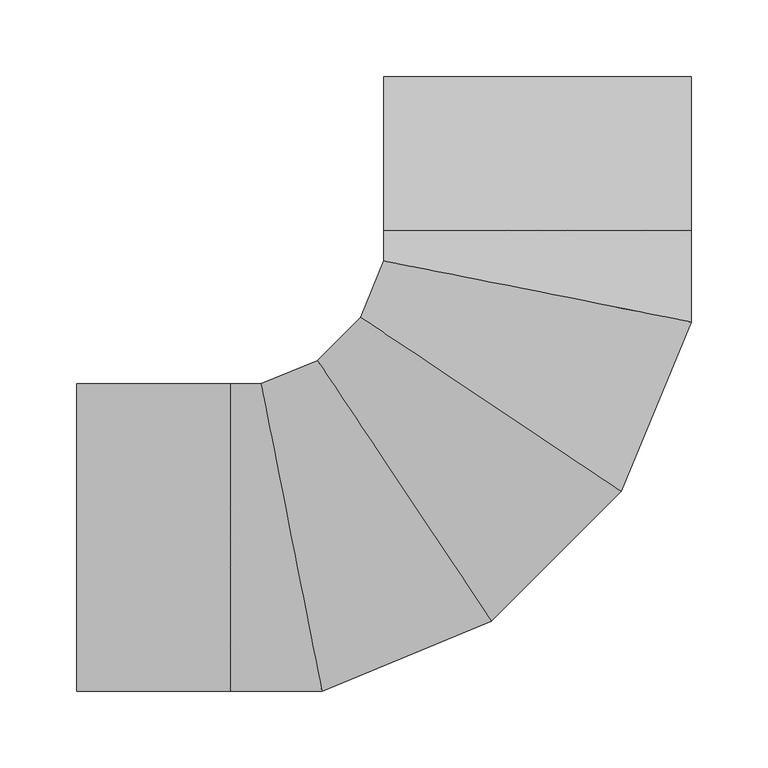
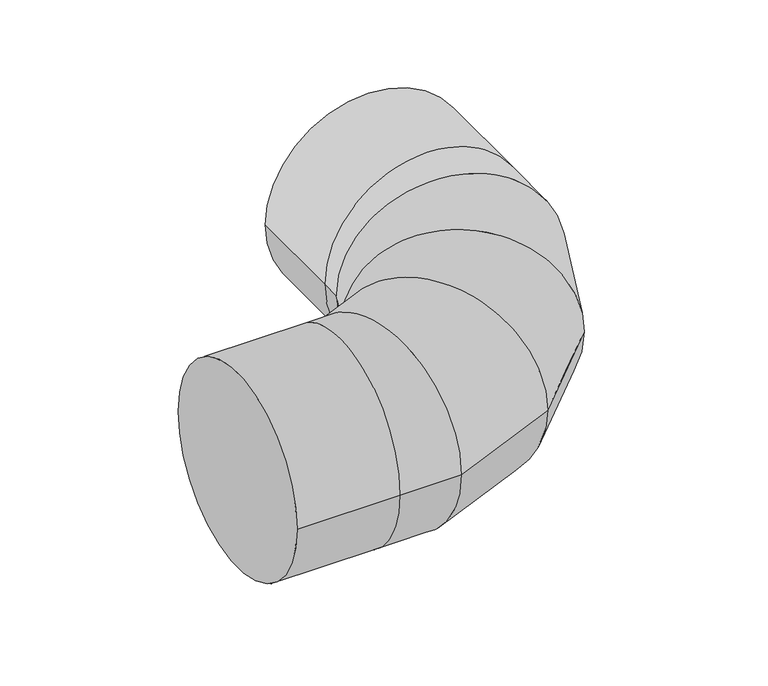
"""IFC4 building model written with IfcOpenShell, lengths in millimetres: pipe fitting geometry, NLRS_52_PIF_UN_PE segmentbocht_PRO_101555_geb : DN200-300 / ø200-315 - OD."""

from ifc_helpers import new_model, si_unit, frame, origin, place, context, project, spatial, circle_curve, ellipse_curve, source, transform, mapped, element, save
from ifc_brep_helpers import plane_surface, cylinder_surface, advanced_brep


def pipe_fitting_7b2d2720(model_context):
    return source(origin(), model_context, "Body", "AdvancedBrep", [
        advanced_brep(
        [(-300.0, -100.0, 0.0), (-300.0, 100.0, 0.0), (-200.0, -100.0, 0.0), (-200.0, 100.0, 0.0), (-140.3262898, -100.0, 0.0), (-180.1087633, 100.0, 0.0), (-30.0636508, -54.3277195, 0.0), (-143.3545503, 115.2240935, 0.0), (100.0, 300.0, 0.0), (-100.0, 300.0, 0.0), (-100.0, 200.0, 0.0), (100.0, 200.0, 0.0), (54.3277195, 30.0636508, 0.0), (-115.2240935, 143.3545503, 0.0), (100.0, 140.3262898, 0.0), (-100.0, 180.1087633, 0.0)],
        [
            (0, 1, circle_curve(frame((-300.0, 0.0, 0.0), z_axis=(-1.0, 0.0, 0.0), x_axis=(0.0, 1.0, 0.0)), 100.0)),
            (1, 0, circle_curve(frame((-300.0, 0.0, 0.0), z_axis=(-1.0, 0.0, 0.0), x_axis=(0.0, 1.0, 0.0)), 100.0)),
            (0, 2),
            (2, 3, circle_curve(frame((-200.0, 0.0, 0.0), z_axis=(-1.0, 0.0, 0.0), x_axis=(0.0, 1.0, 0.0)), 100.0)),
            (3, 1),
            (3, 2, circle_curve(frame((-200.0, 0.0, 0.0), z_axis=(-1.0, 0.0, 0.0), x_axis=(0.0, 1.0, 0.0)), 100.0)),
            (2, 4),
            (4, 5, ellipse_curve(frame((-160.2175265, 0.0, 0.0), z_axis=(-0.98078528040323, -0.1950903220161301, 0.0), x_axis=(-0.19509032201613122, 0.9807852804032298, 0.0)), 101.9591158, 100.0)),
            (5, 3),
            (5, 4, ellipse_curve(frame((-160.2175265, 0.0, 0.0), z_axis=(-0.98078528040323, -0.1950903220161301, 0.0), x_axis=(-0.19509032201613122, 0.9807852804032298, 0.0)), 101.9591158, 100.0)),
            (4, 6),
            (6, 7, ellipse_curve(frame((-86.7091005, 30.448187, 0.0), z_axis=(-0.8314696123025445, -0.5555702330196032, 0.0), x_axis=(-0.555570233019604, 0.831469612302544, 0.0)), 101.9591158, 100.0)),
            (7, 5),
            (7, 6, ellipse_curve(frame((-86.7091005, 30.448187, 0.0), z_axis=(-0.8314696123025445, -0.5555702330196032, 0.0), x_axis=(-0.555570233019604, 0.831469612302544, 0.0)), 101.9591158, 100.0)),
            (8, 9, circle_curve(frame((0.0, 300.0, 0.0), z_axis=(0.0, 1.0, 0.0), x_axis=(-1.0, 0.0, 0.0)), 100.0)),
            (9, 8, circle_curve(frame((0.0, 300.0, 0.0), z_axis=(0.0, 1.0, 0.0), x_axis=(-1.0, 0.0, 0.0)), 100.0)),
            (10, 11, circle_curve(frame((0.0, 200.0, 0.0), z_axis=(0.0, 1.0, 0.0), x_axis=(-1.0, 0.0, 0.0)), 100.0)),
            (11, 8),
            (9, 10),
            (11, 10, circle_curve(frame((0.0, 200.0, 0.0), z_axis=(0.0, 1.0, 0.0), x_axis=(-1.0, 0.0, 0.0)), 100.0)),
            (6, 12),
            (12, 13, ellipse_curve(frame((-30.448187, 86.7091005, 0.0), z_axis=(-0.5555702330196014, -0.8314696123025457, 0.0), x_axis=(-0.8314696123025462, 0.5555702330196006, 0.0)), 101.9591158, 100.0)),
            (13, 7),
            (13, 12, ellipse_curve(frame((-30.448187, 86.7091005, 0.0), z_axis=(-0.5555702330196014, -0.8314696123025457, 0.0), x_axis=(-0.8314696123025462, 0.5555702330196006, 0.0)), 101.9591158, 100.0)),
            (12, 14),
            (14, 15, ellipse_curve(frame((0.0, 160.2175265, 0.0), z_axis=(-0.19509032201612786, -0.9807852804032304, 0.0), x_axis=(-0.9807852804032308, 0.1950903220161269, 0.0)), 101.9591158, 100.0)),
            (15, 13),
            (15, 14, ellipse_curve(frame((0.0, 160.2175265, 0.0), z_axis=(-0.19509032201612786, -0.9807852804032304, 0.0), x_axis=(-0.9807852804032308, 0.1950903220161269, 0.0)), 101.9591158, 100.0)),
            (14, 11),
            (10, 15),
        ],
        [
            plane_surface(frame((-300.0, 0.0, 0.0), z_axis=(-1.0, 0.0, 0.0), x_axis=(0.0, 0.0, 1.0))),
            cylinder_surface(frame((-300.0, 0.0, 0.0), z_axis=(-1.0, 0.0, 0.0), x_axis=(0.0, 1.0, 0.0)), 100.0),
            cylinder_surface(frame((-200.0, 0.0, 0.0), z_axis=(-1.0, 0.0, 0.0), x_axis=(0.0, 1.0, 0.0)), 100.0),
            cylinder_surface(frame((-160.2175265, 0.0, 0.0), z_axis=(-0.9238795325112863, -0.3826834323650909, 0.0), x_axis=(-0.3826834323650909, 0.9238795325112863, 0.0)), 100.0),
            plane_surface(frame((0.0, 300.0, 0.0), z_axis=(0.0, 1.0, 0.0), x_axis=(0.0, 0.0, 1.0))),
            cylinder_surface(frame((0.0, 200.0, 0.0), z_axis=(0.0, -1.0, 0.0), x_axis=(-1.0, 0.0, 0.0)), 100.0),
            cylinder_surface(frame((-86.7091005, 30.448187, 0.0), z_axis=(-0.7071067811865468, -0.7071067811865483, 0.0), x_axis=(-0.7071067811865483, 0.7071067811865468, 0.0)), 100.0),
            cylinder_surface(frame((-30.448187, 86.7091005, 0.0), z_axis=(-0.38268343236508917, -0.9238795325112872, 0.0), x_axis=(-0.9238795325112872, 0.38268343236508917, 0.0)), 100.0),
            cylinder_surface(frame((0.0, 160.2175265, 0.0), z_axis=(0.0, -1.0, 0.0), x_axis=(-1.0, 0.0, 0.0)), 100.0),
        ],
        [
            (0, [[1, 2]]),
            (1, [[-1, 3, 4, 5]]),
            (1, [[-2, -5, 6, -3]]),
            (2, [[-4, 7, 8, 9]]),
            (2, [[-6, -9, 10, -7]]),
            (3, [[-8, 11, 12, 13]]),
            (3, [[-10, -13, 14, -11]]),
            (4, [[15, 16]]),
            (5, [[17, 18, -16, 19]]),
            (5, [[20, -19, -15, -18]]),
            (6, [[-12, 21, 22, 23]]),
            (6, [[-14, -23, 24, -21]]),
            (7, [[-22, 25, 26, 27]]),
            (7, [[-24, -27, 28, -25]]),
            (8, [[-26, 29, -17, 30]]),
            (8, [[-28, -30, -20, -29]]),
        ],
    ),
    ])


if __name__ == "__main__":
    model = new_model("IFC4")
    model_context = context("Model", 3, world=origin())
    ifc_project = project(units=[si_unit("LENGTHUNIT", "METRE", prefix="MILLI")], contexts=[model_context])
    site = spatial("IfcSite", under=ifc_project)
    building = spatial("IfcBuilding", under=site)
    placement = place(None, origin())
    pipe_fitting_shape = pipe_fitting_7b2d2720(model_context)
    element("IfcPipeFitting", 1, ObjectType="NLRS_52_PIF_UN_PE segmentbocht_PRO_101555_geb : DN200-300 / ø200-315 - OD", at=placement, inside=building, context=model_context, shape_type="MappedRepresentation", body=[
        mapped(pipe_fitting_shape, transform((0.0, 0.0, 0.0), x_axis=(1.0, 0.0, 0.0), y_axis=(0.0, 1.0, 0.0), z_axis=(0.0, 0.0, 1.0))),
    ])
    save(model, "model.ifc")
